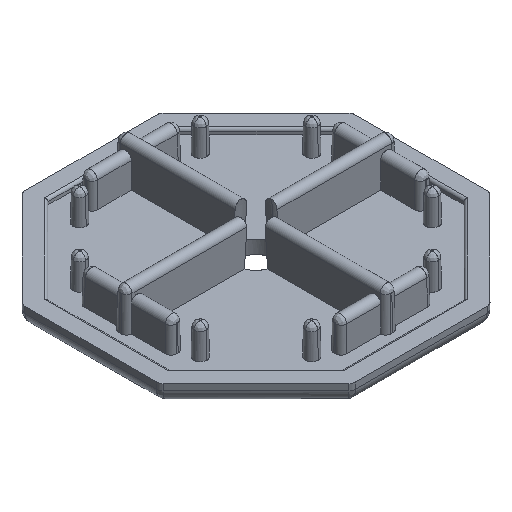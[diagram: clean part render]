
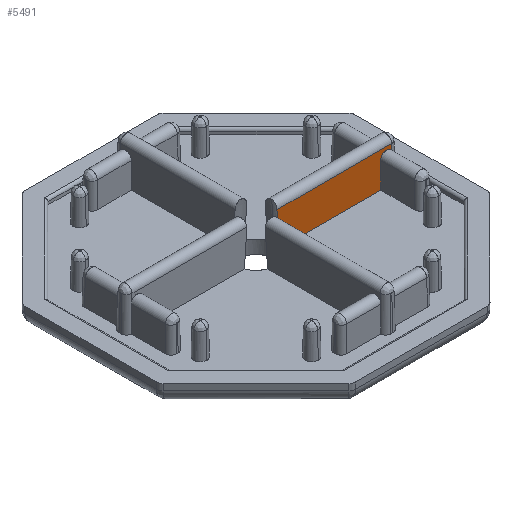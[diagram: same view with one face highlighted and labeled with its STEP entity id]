
A CAD part, isometric view. The second image highlights one B-rep face of the part: STEP entity #5491.
In plain terms, the highlighted free-form (B-spline) face has degree [1, 1] with [2, 2] control points.
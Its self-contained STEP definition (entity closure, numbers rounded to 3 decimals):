
#5419=CARTESIAN_POINT('Control Point',(65.293,-14.095,-0.8)) ;
#5420=CARTESIAN_POINT('Control Point',(65.293,-14.007,4.253)) ;
#5421=CARTESIAN_POINT('Control Point',(82.223,-14.095,-0.8)) ;
#5422=CARTESIAN_POINT('Control Point',(82.223,-14.007,4.253)) ;
#5424=CARTESIAN_POINT('Control Point',(65.731,-14.095,-0.8)) ;
#5425=CARTESIAN_POINT('Control Point',(80.48,-14.095,-0.8)) ;
#5426=CARTESIAN_POINT('Vertex',(65.731,-14.095,-0.8)) ;
#5428=CARTESIAN_POINT('Vertex',(80.48,-14.095,-0.8)) ;
#5432=CARTESIAN_POINT('Control Point',(80.48,-14.095,-0.8)) ;
#5433=CARTESIAN_POINT('Control Point',(80.545,-14.03,2.93)) ;
#5434=CARTESIAN_POINT('Vertex',(80.545,-14.03,2.93)) ;
#5438=CARTESIAN_POINT('Control Point',(80.545,-14.03,2.93)) ;
#5439=CARTESIAN_POINT('Control Point',(80.546,-14.029,2.973)) ;
#5440=CARTESIAN_POINT('Control Point',(80.549,-14.028,3.007)) ;
#5441=CARTESIAN_POINT('Control Point',(80.552,-14.028,3.037)) ;
#5442=CARTESIAN_POINT('Control Point',(80.571,-14.026,3.14)) ;
#5443=CARTESIAN_POINT('Control Point',(80.596,-14.025,3.22)) ;
#5444=CARTESIAN_POINT('Control Point',(80.617,-14.024,3.27)) ;
#5445=CARTESIAN_POINT('Control Point',(80.699,-14.021,3.429)) ;
#5446=CARTESIAN_POINT('Control Point',(80.792,-14.019,3.543)) ;
#5447=CARTESIAN_POINT('Control Point',(80.865,-14.018,3.607)) ;
#5448=CARTESIAN_POINT('Control Point',(81.054,-14.016,3.731)) ;
#5449=CARTESIAN_POINT('Control Point',(81.258,-14.014,3.799)) ;
#5450=CARTESIAN_POINT('Control Point',(81.386,-14.014,3.816)) ;
#5451=CARTESIAN_POINT('Control Point',(81.565,-14.014,3.804)) ;
#5452=CARTESIAN_POINT('Control Point',(81.757,-14.016,3.739)) ;
#5453=CARTESIAN_POINT('Control Point',(81.806,-14.016,3.719)) ;
#5454=CARTESIAN_POINT('Control Point',(81.895,-14.017,3.673)) ;
#5455=CARTESIAN_POINT('Control Point',(81.988,-14.018,3.606)) ;
#5456=CARTESIAN_POINT('Control Point',(82.03,-14.018,3.571)) ;
#5457=CARTESIAN_POINT('Control Point',(82.089,-14.019,3.511)) ;
#5458=CARTESIAN_POINT('Control Point',(82.153,-14.021,3.428)) ;
#5459=CARTESIAN_POINT('Control Point',(82.17,-14.021,3.404)) ;
#5460=CARTESIAN_POINT('Control Point',(82.188,-14.022,3.374)) ;
#5461=CARTESIAN_POINT('Control Point',(82.208,-14.023,3.337)) ;
#5462=CARTESIAN_POINT('Vertex',(82.208,-14.023,3.337)) ;
#5466=CARTESIAN_POINT('Control Point',(82.208,-14.023,3.337)) ;
#5467=CARTESIAN_POINT('Control Point',(82.192,-14.007,4.253)) ;
#5468=CARTESIAN_POINT('Vertex',(82.192,-14.007,4.253)) ;
#5472=CARTESIAN_POINT('Control Point',(82.192,-14.007,4.253)) ;
#5473=CARTESIAN_POINT('Control Point',(65.293,-14.007,4.253)) ;
#5474=CARTESIAN_POINT('Vertex',(65.293,-14.007,4.253)) ;
#5478=CARTESIAN_POINT('Control Point',(65.293,-14.007,4.253)) ;
#5479=CARTESIAN_POINT('Control Point',(65.437,-14.035,2.596)) ;
#5480=CARTESIAN_POINT('Control Point',(65.583,-14.065,0.912)) ;
#5481=CARTESIAN_POINT('Control Point',(65.731,-14.095,-0.8)) ;
#5484=ORIENTED_EDGE('',*,*,#5430,.T.) ;
#5485=ORIENTED_EDGE('',*,*,#5436,.T.) ;
#5486=ORIENTED_EDGE('',*,*,#5464,.T.) ;
#5487=ORIENTED_EDGE('',*,*,#5470,.T.) ;
#5488=ORIENTED_EDGE('',*,*,#5476,.T.) ;
#5489=ORIENTED_EDGE('',*,*,#5482,.T.) ;
#5491=ADVANCED_FACE('\X2\66F29762\X0\.69',(#5490),#5418,.T.) ;
#5423=B_SPLINE_CURVE_WITH_KNOTS('',1,(#5424,#5425),.UNSPECIFIED.,.F.,.U.,(2,2),(-8.026,6.722),.UNSPECIFIED.) ;
#5431=B_SPLINE_CURVE_WITH_KNOTS('',1,(#5432,#5433),.UNSPECIFIED.,.F.,.U.,(2,2),(-0.371,0.371),.UNSPECIFIED.) ;
#5437=B_SPLINE_CURVE_WITH_KNOTS('',5,(#5438,#5439,#5440,#5441,#5442,#5443,#5444,#5445,#5446,#5447,#5448,#5449,#5450,#5451,#5452,#5453,#5454,#5455,#5456,#5457,#5458,#5459,#5460,#5461),.UNSPECIFIED.,.F.,.U.,(6,3,3,3,3,3,3,6),(0.,0.054,0.214,0.643,1.285,1.5,1.66,1.714),.UNSPECIFIED.) ;
#5465=B_SPLINE_CURVE_WITH_KNOTS('',1,(#5466,#5467),.UNSPECIFIED.,.F.,.U.,(2,2),(-0.091,0.091),.UNSPECIFIED.) ;
#5471=B_SPLINE_CURVE_WITH_KNOTS('',1,(#5472,#5473),.UNSPECIFIED.,.F.,.U.,(2,2),(-8.45,8.45),.UNSPECIFIED.) ;
#5477=B_SPLINE_CURVE_WITH_KNOTS('',3,(#5478,#5479,#5480,#5481),.UNSPECIFIED.,.F.,.U.,(4,4),(0.,1.092),.UNSPECIFIED.) ;
#5418=B_SPLINE_SURFACE_WITH_KNOTS('',1,1,((#5419,#5420),(#5421,#5422)),.UNSPECIFIED.,.F.,.F.,.U.,(2,2),(2,2),(-8.465,8.465),(0.,1.),.UNSPECIFIED.) ;
#5430=EDGE_CURVE('',#5427,#5429,#5423,.T.) ;
#5436=EDGE_CURVE('',#5429,#5435,#5431,.T.) ;
#5464=EDGE_CURVE('',#5435,#5463,#5437,.T.) ;
#5470=EDGE_CURVE('',#5463,#5469,#5465,.T.) ;
#5476=EDGE_CURVE('',#5469,#5475,#5471,.T.) ;
#5482=EDGE_CURVE('',#5475,#5427,#5477,.T.) ;
#5483=EDGE_LOOP('',(#5484,#5485,#5486,#5487,#5488,#5489)) ;
#5490=FACE_OUTER_BOUND('',#5483,.T.) ;
#5427=VERTEX_POINT('',#5426) ;
#5429=VERTEX_POINT('',#5428) ;
#5435=VERTEX_POINT('',#5434) ;
#5463=VERTEX_POINT('',#5462) ;
#5469=VERTEX_POINT('',#5468) ;
#5475=VERTEX_POINT('',#5474) ;
